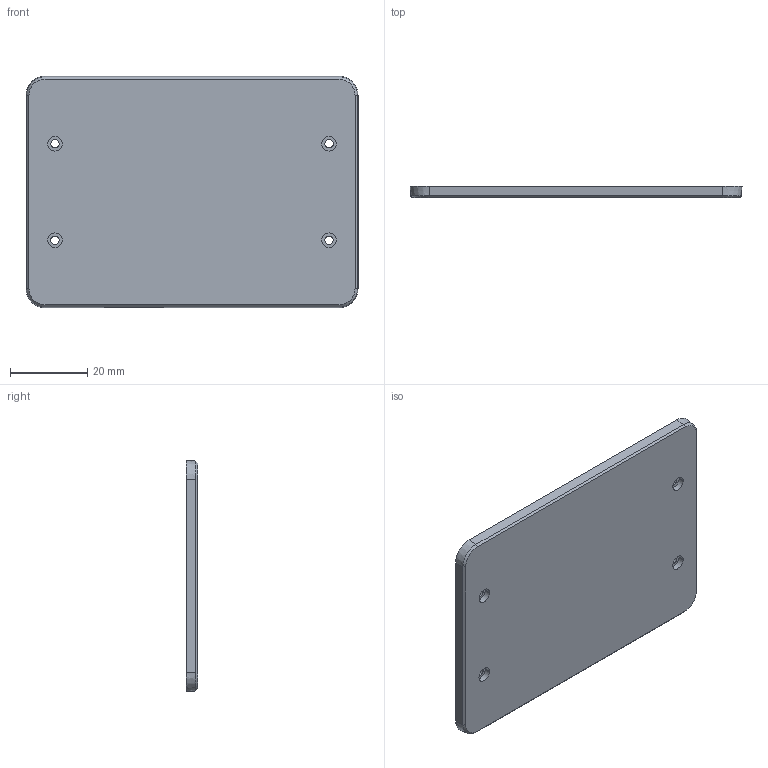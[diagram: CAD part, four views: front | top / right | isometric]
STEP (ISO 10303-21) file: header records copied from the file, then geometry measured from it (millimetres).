
FILE_DESCRIPTION((''),'2;1');
FILE_NAME('PMMA_B','2024-06-03T15:27:53',('Roy'),(''),'CREO PARAMETRIC BY PTC INC, 2019224','CREO PARAMETRIC BY PTC INC, 2019224','');
FILE_SCHEMA(('AUTOMOTIVE_DESIGN { 1 0 10303 214 1 1 1 1 }'));
Length unit declared in the file: millimetre
Products named in the file (1): PMMA_B
Bounding box: 86 x 3 x 60 mm (x, y, z)
Volume: 8224.9 mm3; surface area: 11696.6 mm2
Topology: 1 solids, 1 shells, 100 faces, 247 edges, 158 vertices
Faces by surface type: plane 43, cylinder 39, cone 16, torus 2
Entity records: 3105 total; most frequent: DIRECTION 543, CARTESIAN_POINT 515, ORIENTED_EDGE 494, EDGE_CURVE 247, AXIS2_PLACEMENT_3D 198, VERTEX_POINT 158, VECTOR 147, LINE 147
